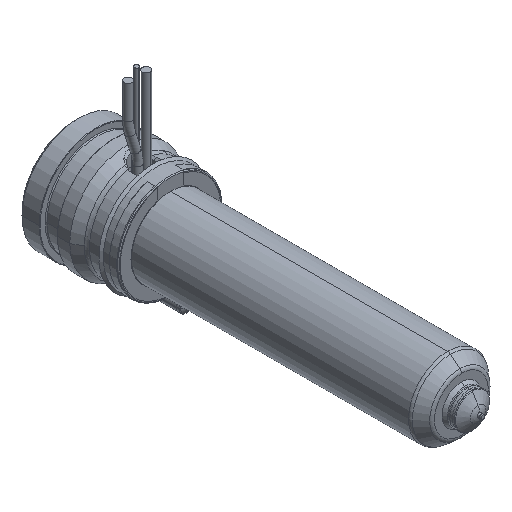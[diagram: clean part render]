
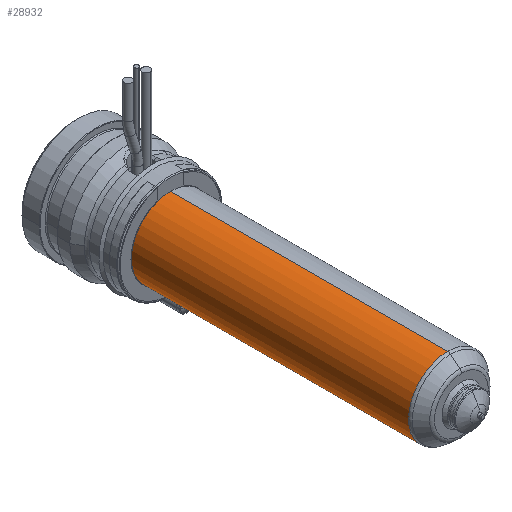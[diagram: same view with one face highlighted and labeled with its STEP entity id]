
A CAD part, isometric view. The second image highlights one B-rep face of the part: STEP entity #28932.
In plain terms, the highlighted cylindrical face has radius 9 mm (diameter 18 mm), a partial arc.
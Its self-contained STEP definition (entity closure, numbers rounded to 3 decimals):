
#28315=CARTESIAN_POINT('',(0.,-85.836,0.));
#28316=DIRECTION('',(0.,-1.,0.));
#28317=DIRECTION('',(0.,0.,1.));
#28318=AXIS2_PLACEMENT_3D('',#28315,#28316,#28317);
#28323=CARTESIAN_POINT('',(0.,-22.,0.));
#28324=DIRECTION('',(0.,-1.,0.));
#28325=DIRECTION('',(0.,0.,1.));
#28326=AXIS2_PLACEMENT_3D('',#28323,#28324,#28325);
#28331=DIRECTION('',(0.,-1.,0.));
#28332=VECTOR('',#28331,63.836);
#28333=CARTESIAN_POINT('',(0.,-22.,9.));
#28334=LINE('',#28333,#28332);
#28346=DIRECTION('',(0.,-1.,0.));
#28347=VECTOR('',#28346,63.836);
#28348=CARTESIAN_POINT('',(0.,-22.,-9.));
#28349=LINE('',#28348,#28347);
#28549=CARTESIAN_POINT('',(0.,-22.,9.));
#28550=CARTESIAN_POINT('',(0.,-85.836,9.));
#28551=VERTEX_POINT('',#28549);
#28552=VERTEX_POINT('',#28550);
#28575=CARTESIAN_POINT('',(0.,-22.,-9.));
#28576=CARTESIAN_POINT('',(0.,-85.836,-9.));
#28577=VERTEX_POINT('',#28575);
#28578=VERTEX_POINT('',#28576);
#28918=CARTESIAN_POINT('',(0.,-14.2,0.));
#28919=DIRECTION('',(0.,-1.,0.));
#28920=DIRECTION('',(0.,0.,1.));
#28921=AXIS2_PLACEMENT_3D('',#28918,#28919,#28920);
#28922=CYLINDRICAL_SURFACE('',#28921,9.);
#28924=ORIENTED_EDGE('',*,*,#28923,.T.);
#28925=ORIENTED_EDGE('',*,*,#28913,.T.);
#28927=ORIENTED_EDGE('',*,*,#28926,.F.);
#28929=ORIENTED_EDGE('',*,*,#28928,.F.);
#28930=EDGE_LOOP('',(#28924,#28925,#28927,#28929));
#28931=FACE_OUTER_BOUND('',#28930,.F.);
#28932=ADVANCED_FACE('',(#28931),#28922,.T.);
#28319=CIRCLE('',#28318,9.);
#28327=CIRCLE('',#28326,9.);
#28913=EDGE_CURVE('',#28552,#28578,#28319,.T.);
#28923=EDGE_CURVE('',#28551,#28552,#28334,.T.);
#28926=EDGE_CURVE('',#28577,#28578,#28349,.T.);
#28928=EDGE_CURVE('',#28551,#28577,#28327,.T.);
